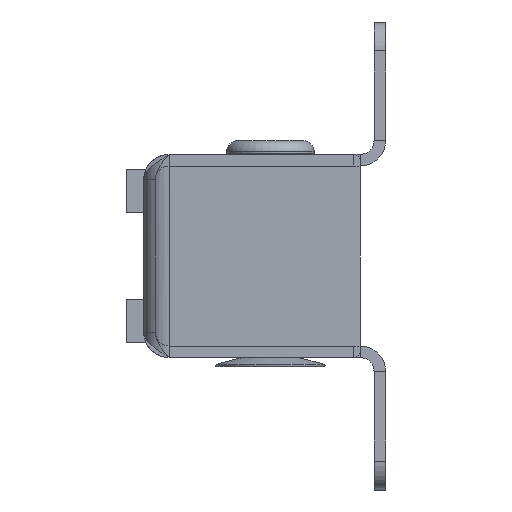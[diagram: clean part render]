
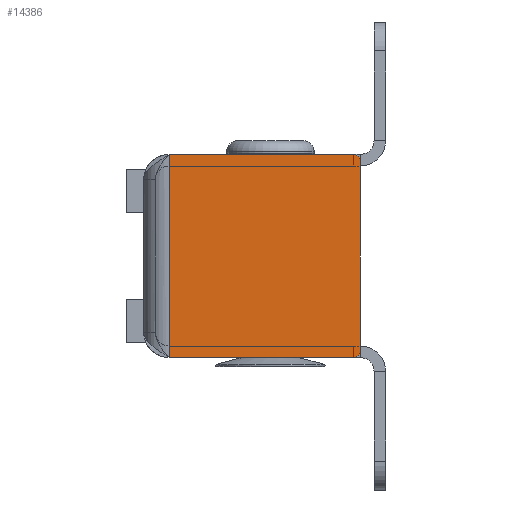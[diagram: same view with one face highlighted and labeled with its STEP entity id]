
A CAD part, left-side view. The second image highlights one B-rep face of the part: STEP entity #14386.
In plain terms, the highlighted planar face has unit normal (-1, 0, 0).
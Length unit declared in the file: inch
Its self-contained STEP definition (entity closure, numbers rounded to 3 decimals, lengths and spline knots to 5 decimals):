
#1539 = CARTESIAN_POINT ( 'NONE',  ( -12., -0.42125, -0.40937 ) ) ;
#1544 = LINE ( 'NONE', #4184, #14456 ) ;
#2573 = CARTESIAN_POINT ( 'NONE',  ( -12., -0.4525, 0.40938 ) ) ;
#2804 = VERTEX_POINT ( 'NONE', #11340 ) ;
#3398 = DIRECTION ( 'NONE',  ( -1., 0., 0. ) ) ;
#3454 = DIRECTION ( 'NONE',  ( 0., 1., 0. ) ) ;
#3461 = EDGE_CURVE ( 'NONE', #10096, #7581, #13715, .T. ) ;
#3552 = EDGE_CURVE ( 'NONE', #9955, #7217, #11629, .T. ) ;
#3763 = ORIENTED_EDGE ( 'NONE', *, *, #3552, .T. ) ;
#4184 = CARTESIAN_POINT ( 'NONE',  ( -12., 0.3775, -0.33062 ) ) ;
#4287 = DIRECTION ( 'NONE',  ( 0., 0., -1. ) ) ;
#4424 = EDGE_CURVE ( 'NONE', #2804, #11320, #1544, .T. ) ;
#4487 = DIRECTION ( 'NONE',  ( 0., -1., 0. ) ) ;
#4488 = LINE ( 'NONE', #15163, #9711 ) ;
#4525 = CARTESIAN_POINT ( 'NONE',  ( -12., 0.3775, -0.44062 ) ) ;
#4638 = DIRECTION ( 'NONE',  ( 0., -1., 0. ) ) ;
#4727 = CARTESIAN_POINT ( 'NONE',  ( -12., -0.42125, -0.44062 ) ) ;
#5070 = LINE ( 'NONE', #14008, #12723 ) ;
#5195 = DIRECTION ( 'NONE',  ( 0., 1., 0. ) ) ;
#5469 = EDGE_CURVE ( 'NONE', #11320, #10096, #4488, .T. ) ;
#7217 = VERTEX_POINT ( 'NONE', #7838 ) ;
#7383 = AXIS2_PLACEMENT_3D ( 'NONE', #8802, #11500, #5195 ) ;
#7473 = DIRECTION ( 'NONE',  ( 0., 1., 0. ) ) ;
#7489 = ORIENTED_EDGE ( 'NONE', *, *, #5469, .T. ) ;
#7494 = LINE ( 'NONE', #11691, #11989 ) ;
#7577 = AXIS2_PLACEMENT_3D ( 'NONE', #11931, #3398, #3454 ) ;
#7581 = VERTEX_POINT ( 'NONE', #13315 ) ;
#7838 = CARTESIAN_POINT ( 'NONE',  ( -12., -0.42125, 0.44063 ) ) ;
#8708 = DIRECTION ( 'NONE',  ( -1., 0., 0. ) ) ;
#8802 = CARTESIAN_POINT ( 'NONE',  ( -12., -0.42125, 0.40938 ) ) ;
#9056 = AXIS2_PLACEMENT_3D ( 'NONE', #1539, #8708, #7473 ) ;
#9711 = VECTOR ( 'NONE', #4487, 39.37008 ) ;
#9955 = VERTEX_POINT ( 'NONE', #2573 ) ;
#10096 = VERTEX_POINT ( 'NONE', #4727 ) ;
#10401 = DIRECTION ( 'NONE',  ( 0., 0., -1. ) ) ;
#10587 = PLANE ( 'NONE',  #7577 ) ;
#10659 = ORIENTED_EDGE ( 'NONE', *, *, #3461, .T. ) ;
#11320 = VERTEX_POINT ( 'NONE', #4525 ) ;
#11340 = CARTESIAN_POINT ( 'NONE',  ( -12., 0.3775, 0.44063 ) ) ;
#11351 = ORIENTED_EDGE ( 'NONE', *, *, #4424, .T. ) ;
#11374 = EDGE_CURVE ( 'NONE', #9955, #7581, #7494, .T. ) ;
#11427 = EDGE_CURVE ( 'NONE', #2804, #7217, #5070, .T. ) ;
#11500 = DIRECTION ( 'NONE',  ( -1., 0., 0. ) ) ;
#11629 = CIRCLE ( 'NONE', #7383, 0.03125 ) ;
#11691 = CARTESIAN_POINT ( 'NONE',  ( -12., -0.4525, -0.33062 ) ) ;
#11843 = ORIENTED_EDGE ( 'NONE', *, *, #11374, .F. ) ;
#11931 = CARTESIAN_POINT ( 'NONE',  ( -12., 0.4375, -0.33062 ) ) ;
#11989 = VECTOR ( 'NONE', #10401, 39.37008 ) ;
#12723 = VECTOR ( 'NONE', #4638, 39.37008 ) ;
#13315 = CARTESIAN_POINT ( 'NONE',  ( -12., -0.4525, -0.40937 ) ) ;
#13629 = EDGE_LOOP ( 'NONE', ( #7489, #10659, #11843, #3763, #14104, #11351 ) ) ;
#13715 = CIRCLE ( 'NONE', #9056, 0.03125 ) ;
#14008 = CARTESIAN_POINT ( 'NONE',  ( -12., 0.3775, 0.44063 ) ) ;
#14104 = ORIENTED_EDGE ( 'NONE', *, *, #11427, .F. ) ;
#14139 = FACE_OUTER_BOUND ( 'NONE', #13629, .T. ) ;
#14386 = ADVANCED_FACE ( 'NONE', ( #14139 ), #10587, .T. ) ;
#14456 = VECTOR ( 'NONE', #4287, 39.37008 ) ;
#15163 = CARTESIAN_POINT ( 'NONE',  ( -12., 0.3775, -0.44062 ) ) ;
